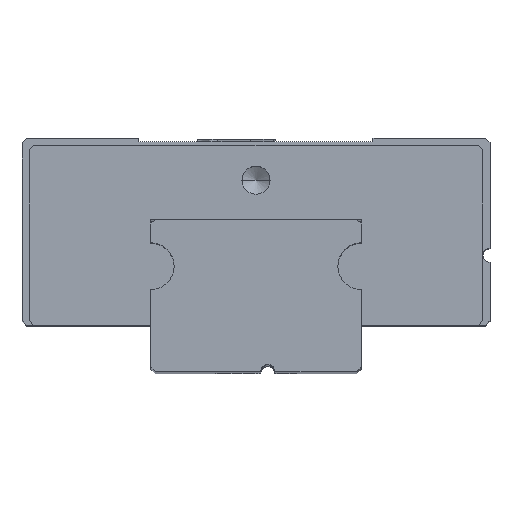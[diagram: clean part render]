
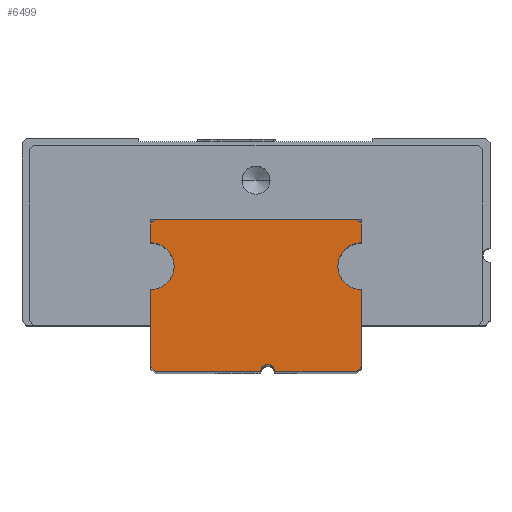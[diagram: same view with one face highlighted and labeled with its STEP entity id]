
A CAD part, top view. The second image highlights one B-rep face of the part: STEP entity #6499.
In plain terms, the highlighted planar face has unit normal (0, 0, 1).
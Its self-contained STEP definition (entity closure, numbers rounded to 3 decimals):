
#51 = LINE ( 'NONE', #8700, #3275 ) ;
#81 = LINE ( 'NONE', #6205, #6229 ) ;
#120 = LINE ( 'NONE', #10436, #874 ) ;
#141 = CARTESIAN_POINT ( 'NONE',  ( -4.5, 6.3, 27.5 ) ) ;
#143 = CARTESIAN_POINT ( 'NONE',  ( 4.3, 6.5, 27.5 ) ) ;
#149 = ORIENTED_EDGE ( 'NONE', *, *, #1850, .T. ) ;
#204 = CARTESIAN_POINT ( 'NONE',  ( 0.5, 0., 27.5 ) ) ;
#239 = DIRECTION ( 'NONE',  ( 0., 0., -1. ) ) ;
#264 = DIRECTION ( 'NONE',  ( -1., 0., 0. ) ) ;
#274 = EDGE_CURVE ( 'NONE', #5114, #5674, #8788, .T. ) ;
#330 = EDGE_CURVE ( 'NONE', #5320, #7546, #3328, .T. ) ;
#424 = AXIS2_PLACEMENT_3D ( 'NONE', #5562, #239, #9873 ) ;
#465 = ORIENTED_EDGE ( 'NONE', *, *, #2978, .F. ) ;
#676 = DIRECTION ( 'NONE',  ( -1., 0., 0. ) ) ;
#691 = VECTOR ( 'NONE', #3846, 1000. ) ;
#845 = VERTEX_POINT ( 'NONE', #143 ) ;
#874 = VECTOR ( 'NONE', #6897, 1000. ) ;
#1037 = ORIENTED_EDGE ( 'NONE', *, *, #10138, .T. ) ;
#1174 = CARTESIAN_POINT ( 'NONE',  ( 4.3, 0., 27.5 ) ) ;
#1358 = LINE ( 'NONE', #4849, #6960 ) ;
#1506 = DIRECTION ( 'NONE',  ( 0., 0., -1. ) ) ;
#1679 = DIRECTION ( 'NONE',  ( 0., 1., 0. ) ) ;
#1785 = EDGE_CURVE ( 'NONE', #9635, #2885, #9377, .T. ) ;
#1850 = EDGE_CURVE ( 'NONE', #3036, #845, #9580, .T. ) ;
#2034 = ORIENTED_EDGE ( 'NONE', *, *, #1785, .T. ) ;
#2102 = CARTESIAN_POINT ( 'NONE',  ( 4.5, 4.5, 27.5 ) ) ;
#2188 = CARTESIAN_POINT ( 'NONE',  ( 4.5, 0.2, 27.5 ) ) ;
#2293 = DIRECTION ( 'NONE',  ( 0., 0., 1. ) ) ;
#2352 = AXIS2_PLACEMENT_3D ( 'NONE', #204, #6344, #8163 ) ;
#2846 = VERTEX_POINT ( 'NONE', #1174 ) ;
#2885 = VERTEX_POINT ( 'NONE', #9247 ) ;
#2911 = EDGE_CURVE ( 'NONE', #4612, #7691, #1358, .T. ) ;
#2966 = FACE_OUTER_BOUND ( 'NONE', #4442, .T. ) ;
#2978 = EDGE_CURVE ( 'NONE', #2846, #7546, #81, .T. ) ;
#3036 = VERTEX_POINT ( 'NONE', #5170 ) ;
#3139 = ORIENTED_EDGE ( 'NONE', *, *, #6308, .F. ) ;
#3165 = ORIENTED_EDGE ( 'NONE', *, *, #4693, .T. ) ;
#3199 = CARTESIAN_POINT ( 'NONE',  ( -4.5, 4.5, 27.5 ) ) ;
#3275 = VECTOR ( 'NONE', #5460, 1000. ) ;
#3328 = CIRCLE ( 'NONE', #424, 0.3 ) ;
#3415 = CARTESIAN_POINT ( 'NONE',  ( -4.5, 0.2, 27.5 ) ) ;
#3572 = CARTESIAN_POINT ( 'NONE',  ( 4.5, 6.5, 27.5 ) ) ;
#3622 = VECTOR ( 'NONE', #4181, 1000. ) ;
#3698 = DIRECTION ( 'NONE',  ( 0., 0., -1. ) ) ;
#3729 = EDGE_CURVE ( 'NONE', #4632, #9725, #7739, .T. ) ;
#3846 = DIRECTION ( 'NONE',  ( -0.707, -0.707, 0. ) ) ;
#3879 = EDGE_CURVE ( 'NONE', #5320, #5641, #5220, .T. ) ;
#4131 = DIRECTION ( 'NONE',  ( 0., 1., 0. ) ) ;
#4181 = DIRECTION ( 'NONE',  ( 0.707, 0.707, 0. ) ) ;
#4361 = CARTESIAN_POINT ( 'NONE',  ( -4.5, 0., 27.5 ) ) ;
#4437 = AXIS2_PLACEMENT_3D ( 'NONE', #5846, #1506, #8497 ) ;
#4442 = EDGE_LOOP ( 'NONE', ( #4606, #3165, #2034, #8434, #149, #1037, #10341, #6964, #3139, #5271, #8672, #8425, #11179, #465, #4857 ) ) ;
#4527 = CARTESIAN_POINT ( 'NONE',  ( 4.3, 6.5, 27.5 ) ) ;
#4606 = ORIENTED_EDGE ( 'NONE', *, *, #2911, .F. ) ;
#4612 = VERTEX_POINT ( 'NONE', #7047 ) ;
#4632 = VERTEX_POINT ( 'NONE', #3415 ) ;
#4640 = VECTOR ( 'NONE', #9757, 1000. ) ;
#4693 = EDGE_CURVE ( 'NONE', #4612, #9635, #6697, .T. ) ;
#4820 = VECTOR ( 'NONE', #4131, 1000. ) ;
#4849 = CARTESIAN_POINT ( 'NONE',  ( 4.5, 0., 27.5 ) ) ;
#4857 = ORIENTED_EDGE ( 'NONE', *, *, #10466, .T. ) ;
#5105 = LINE ( 'NONE', #11121, #3622 ) ;
#5114 = VERTEX_POINT ( 'NONE', #7232 ) ;
#5170 = CARTESIAN_POINT ( 'NONE',  ( 4.5, 6.3, 27.5 ) ) ;
#5220 = LINE ( 'NONE', #6259, #4640 ) ;
#5271 = ORIENTED_EDGE ( 'NONE', *, *, #3729, .F. ) ;
#5320 = VERTEX_POINT ( 'NONE', #5614 ) ;
#5329 = CARTESIAN_POINT ( 'NONE',  ( 3.5, 4.5, 27.5 ) ) ;
#5460 = DIRECTION ( 'NONE',  ( 0.707, -0.707, 0. ) ) ;
#5562 = CARTESIAN_POINT ( 'NONE',  ( 0.5, 0., 27.5 ) ) ;
#5614 = CARTESIAN_POINT ( 'NONE',  ( 0.2, 0., 27.5 ) ) ;
#5641 = VERTEX_POINT ( 'NONE', #8970 ) ;
#5674 = VERTEX_POINT ( 'NONE', #141 ) ;
#5846 = CARTESIAN_POINT ( 'NONE',  ( 4.5, 4.5, 27.5 ) ) ;
#6062 = CARTESIAN_POINT ( 'NONE',  ( 0.8, 0., 27.5 ) ) ;
#6205 = CARTESIAN_POINT ( 'NONE',  ( 0.5, 0., 27.5 ) ) ;
#6229 = VECTOR ( 'NONE', #9596, 1000. ) ;
#6259 = CARTESIAN_POINT ( 'NONE',  ( 0.5, 0., 27.5 ) ) ;
#6308 = EDGE_CURVE ( 'NONE', #9725, #5114, #8773, .T. ) ;
#6318 = AXIS2_PLACEMENT_3D ( 'NONE', #2102, #3698, #264 ) ;
#6344 = DIRECTION ( 'NONE',  ( 0., 0., -1. ) ) ;
#6372 = AXIS2_PLACEMENT_3D ( 'NONE', #3199, #2293, #676 ) ;
#6499 = ADVANCED_FACE ( 'NONE', ( #2966 ), #9034, .F. ) ;
#6664 = CARTESIAN_POINT ( 'NONE',  ( -4.3, 6.5, 27.5 ) ) ;
#6697 = CIRCLE ( 'NONE', #6318, 1. ) ;
#6874 = DIRECTION ( 'NONE',  ( -1., 0., 0. ) ) ;
#6897 = DIRECTION ( 'NONE',  ( 0., -1., 0. ) ) ;
#6960 = VECTOR ( 'NONE', #8334, 1000. ) ;
#6964 = ORIENTED_EDGE ( 'NONE', *, *, #274, .F. ) ;
#7047 = CARTESIAN_POINT ( 'NONE',  ( 4.5, 3.5, 27.5 ) ) ;
#7048 = EDGE_CURVE ( 'NONE', #11091, #5674, #8252, .T. ) ;
#7232 = CARTESIAN_POINT ( 'NONE',  ( -4.5, 5.5, 27.5 ) ) ;
#7352 = CARTESIAN_POINT ( 'NONE',  ( -4.5, 6.3, 27.5 ) ) ;
#7546 = VERTEX_POINT ( 'NONE', #6062 ) ;
#7691 = VERTEX_POINT ( 'NONE', #2188 ) ;
#7739 = LINE ( 'NONE', #10324, #9951 ) ;
#8119 = EDGE_CURVE ( 'NONE', #4632, #5641, #51, .T. ) ;
#8163 = DIRECTION ( 'NONE',  ( 0., -1., 0. ) ) ;
#8252 = LINE ( 'NONE', #7352, #691 ) ;
#8334 = DIRECTION ( 'NONE',  ( 0., -1., 0. ) ) ;
#8425 = ORIENTED_EDGE ( 'NONE', *, *, #3879, .F. ) ;
#8434 = ORIENTED_EDGE ( 'NONE', *, *, #9558, .F. ) ;
#8497 = DIRECTION ( 'NONE',  ( -1., 0., 0. ) ) ;
#8672 = ORIENTED_EDGE ( 'NONE', *, *, #8119, .T. ) ;
#8700 = CARTESIAN_POINT ( 'NONE',  ( -4.3, 0., 27.5 ) ) ;
#8748 = LINE ( 'NONE', #3572, #11134 ) ;
#8762 = CARTESIAN_POINT ( 'NONE',  ( -4.5, 3.5, 27.5 ) ) ;
#8773 = CIRCLE ( 'NONE', #6372, 1. ) ;
#8788 = LINE ( 'NONE', #4361, #4820 ) ;
#8970 = CARTESIAN_POINT ( 'NONE',  ( -4.3, 0., 27.5 ) ) ;
#9034 = PLANE ( 'NONE',  #2352 ) ;
#9247 = CARTESIAN_POINT ( 'NONE',  ( 4.5, 5.5, 27.5 ) ) ;
#9377 = CIRCLE ( 'NONE', #4437, 1. ) ;
#9558 = EDGE_CURVE ( 'NONE', #3036, #2885, #120, .T. ) ;
#9580 = LINE ( 'NONE', #4527, #10838 ) ;
#9596 = DIRECTION ( 'NONE',  ( -1., 0., 0. ) ) ;
#9635 = VERTEX_POINT ( 'NONE', #5329 ) ;
#9725 = VERTEX_POINT ( 'NONE', #8762 ) ;
#9748 = DIRECTION ( 'NONE',  ( -0.707, 0.707, 0. ) ) ;
#9757 = DIRECTION ( 'NONE',  ( -1., 0., 0. ) ) ;
#9873 = DIRECTION ( 'NONE',  ( -1., 0., 0. ) ) ;
#9951 = VECTOR ( 'NONE', #1679, 1000. ) ;
#10138 = EDGE_CURVE ( 'NONE', #845, #11091, #8748, .T. ) ;
#10324 = CARTESIAN_POINT ( 'NONE',  ( -4.5, 0., 27.5 ) ) ;
#10341 = ORIENTED_EDGE ( 'NONE', *, *, #7048, .T. ) ;
#10436 = CARTESIAN_POINT ( 'NONE',  ( 4.5, 0., 27.5 ) ) ;
#10466 = EDGE_CURVE ( 'NONE', #2846, #7691, #5105, .T. ) ;
#10838 = VECTOR ( 'NONE', #9748, 1000. ) ;
#11091 = VERTEX_POINT ( 'NONE', #6664 ) ;
#11121 = CARTESIAN_POINT ( 'NONE',  ( 4.5, 0.2, 27.5 ) ) ;
#11134 = VECTOR ( 'NONE', #6874, 1000. ) ;
#11179 = ORIENTED_EDGE ( 'NONE', *, *, #330, .T. ) ;
